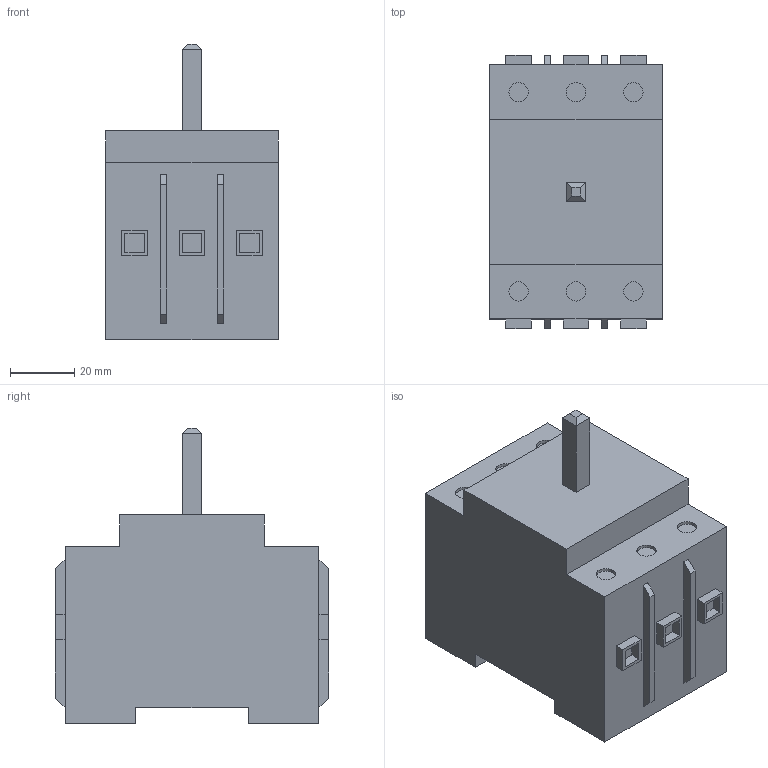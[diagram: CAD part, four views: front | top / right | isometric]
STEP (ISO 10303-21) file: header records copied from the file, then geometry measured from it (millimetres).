
FILE_DESCRIPTION(('STEP AP214'),'1');
FILE_NAME('bloc_nu_022150.stp','2019-01-09T08:02:59',('TraceParts'),('TraceParts S.A.'),'Spatial InterOp 3D',' ',' ');
FILE_SCHEMA(('automotive_design'));
Length unit declared in the file: millimetre
Products named in the file (1): bloc_nu_022150
Bounding box: 53.6 x 85 x 92 mm (x, y, z)
Volume: 250499 mm3; surface area: 28034.6 mm2
Topology: 1 solids, 1 shells, 121 faces, 284 edges, 188 vertices
Faces by surface type: plane 109, cylinder 12
Entity records: 3425 total; most frequent: CARTESIAN_POINT 594, ORIENTED_EDGE 568, DIRECTION 552, EDGE_CURVE 284, LINE 260, VECTOR 260, VERTEX_POINT 188, AXIS2_PLACEMENT_3D 146
